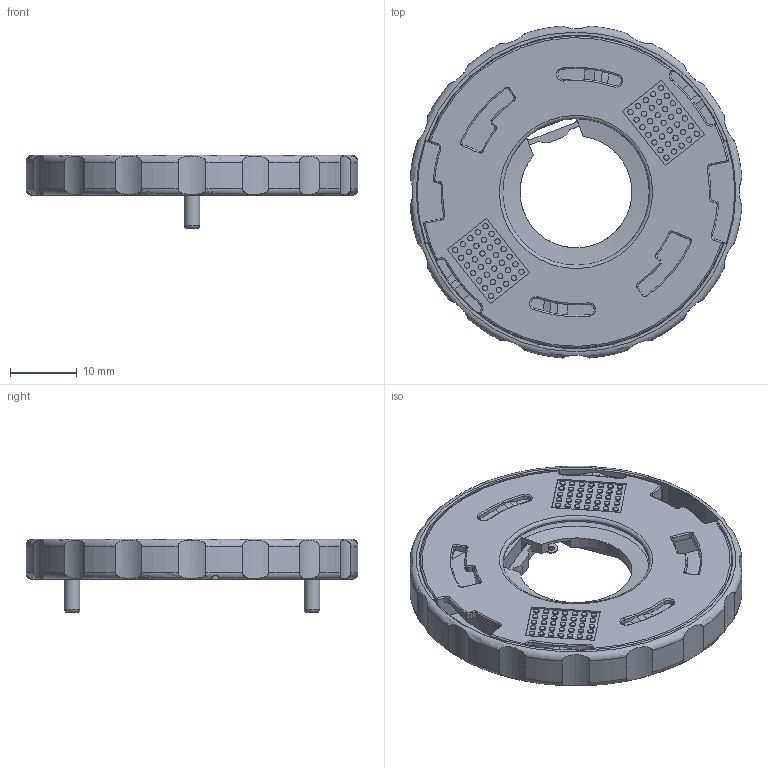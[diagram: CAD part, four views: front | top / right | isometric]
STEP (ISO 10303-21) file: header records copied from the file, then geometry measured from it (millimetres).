
FILE_DESCRIPTION(/* description */ ('Unknown'),/* implementation_level */ '2;1');
FILE_NAME(/* name */ '023-705-03',/* time_stamp */ '2024-04-22T08:49:19+02:00',/* author */ ('Unknown'),/* organization */ ('Unknown'),/* preprocessor_version */ 'ST-DEVELOPER v16.7',/* originating_system */ 'Solid Edge',/* authorisation */ 'Unknown');
FILE_SCHEMA (('AUTOMOTIVE_DESIGN {1 0 10303 214 3 1 1}'));
Length unit declared in the file: millimetre
Products named in the file (1): 023-705-03
Bounding box: 49.83 x 49.83 x 11 mm (x, y, z)
Volume: 5576.8 mm3; surface area: 10599.1 mm2
Topology: 16 solids, 16 shells, 1307 faces, 3498 edges, 2312 vertices
Faces by surface type: plane 827, cylinder 275, cone 79, torus 79, bspline 39, sphere 8
Full cylindrical faces by diameter (mm): 0.519 x2, 0.8 x70, 0.919 x2, 1.2 x2, 2.35 x4, 2.4 x2, 3.95 x2, 4 x2, 4.728 x2, 22 x1
Entity records: 41209 total; most frequent: CARTESIAN_POINT 9925, ORIENTED_EDGE 6526, DIRECTION 6069, EDGE_CURVE 3263, VERTEX_POINT 2211, AXIS2_PLACEMENT_3D 2058, LINE 1953, VECTOR 1953
